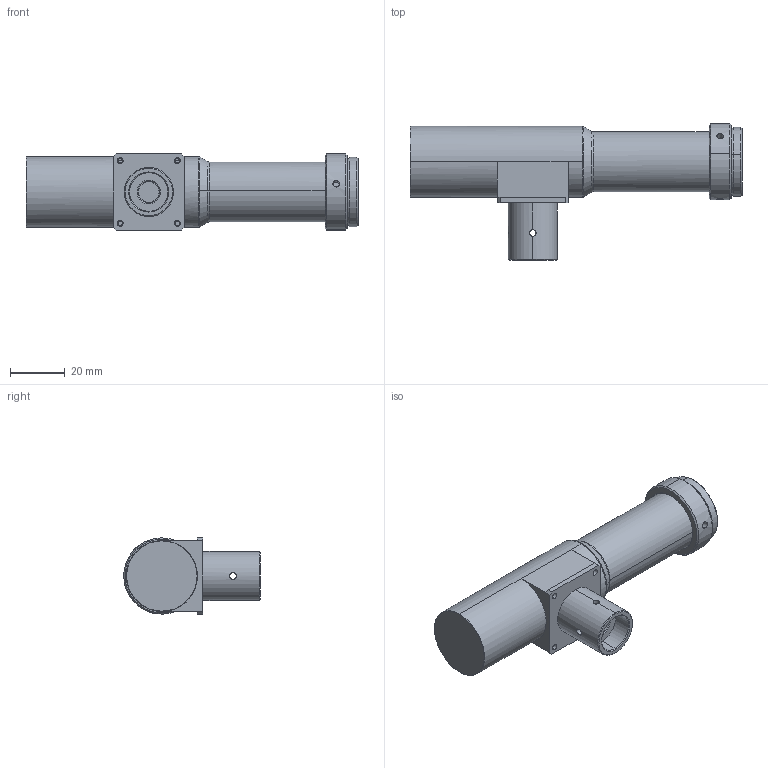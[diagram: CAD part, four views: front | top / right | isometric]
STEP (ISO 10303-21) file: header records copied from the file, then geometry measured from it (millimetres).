
FILE_DESCRIPTION (( 'STEP AP214' ), '1' );
FILE_NAME ('WWH20-63CTV3.STEP', '2025-03-06T10:31:45', ( 'jg' ), ( '' ), 'SwSTEP 2.0', 'SolidWorks 2017', '' );
FILE_SCHEMA (( 'AUTOMOTIVE_DESIGN' ));
Length unit declared in the file: millimetre
Products named in the file (1): WWH20-63CTV3
Bounding box: 121.81 x 50.09 x 28 mm (x, y, z)
Volume: 65237.1 mm3; surface area: 13718.8 mm2
Topology: 1 solids, 1 shells, 116 faces, 266 edges, 168 vertices
Faces by surface type: cylinder 56, plane 38, cone 18, torus 4
Entity records: 4992 total; most frequent: CARTESIAN_POINT 1092, DIRECTION 554, ORIENTED_EDGE 532, EDGE_CURVE 266, AXIS2_PLACEMENT_3D 216, VERTEX_POINT 168, EDGE_LOOP 140, LINE 122
